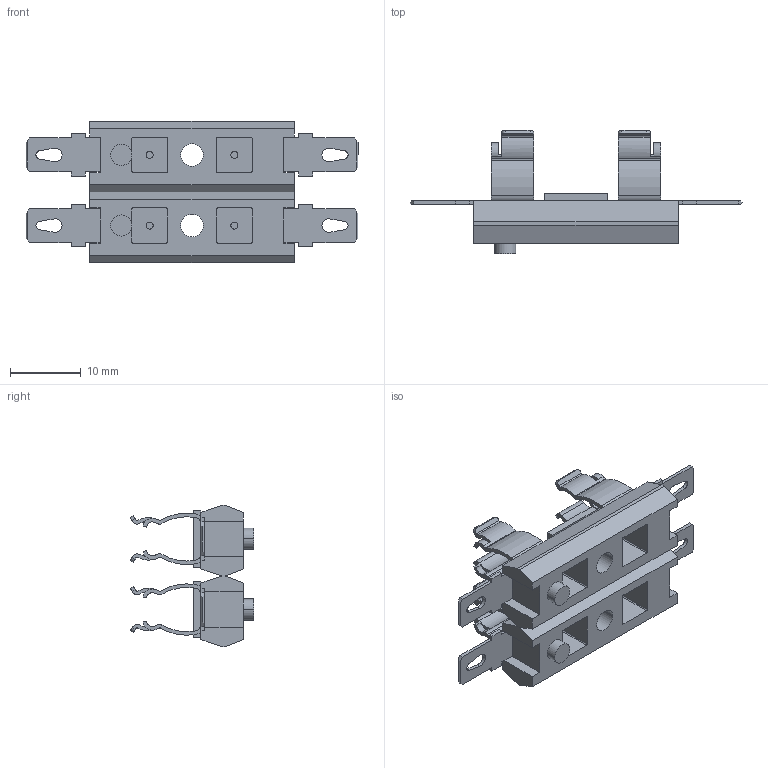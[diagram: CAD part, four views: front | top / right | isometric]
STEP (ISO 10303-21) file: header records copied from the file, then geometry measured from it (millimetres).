
FILE_DESCRIPTION((''),'1');
FILE_NAME('2','2001-05-15T',('jlue'),(''),'PRO/ENGINEER BY PARAMETRIC TECHNOLOGY CORPORATION, 9846','PRO/ENGINEER BY PARAMETRIC TECHNOLOGY CORPORATION, 9846','');
FILE_SCHEMA(('CONFIG_CONTROL_DESIGN'));
Length unit declared in the file: millimetre
Products named in the file (1): 2
Bounding box: 47 x 17.5 x 20 mm (x, y, z)
Surface area: 4238.7 mm2 (no closed solid volume)
Topology: 0 solids, 0 shells, 432 faces, 2424 edges, 2430 vertices
Faces by surface type: plane 268, cylinder 164
Entity records: 12007 total; most frequent: DIRECTION 2448, COMPOSITE_CURVE_SEGMENT 2432, CARTESIAN_POINT 1656, TRIMMED_CURVE 1224, VECTOR 864, LINE 864, AXIS2_PLACEMENT_3D 792, CURVE_BOUNDED_SURFACE 432
